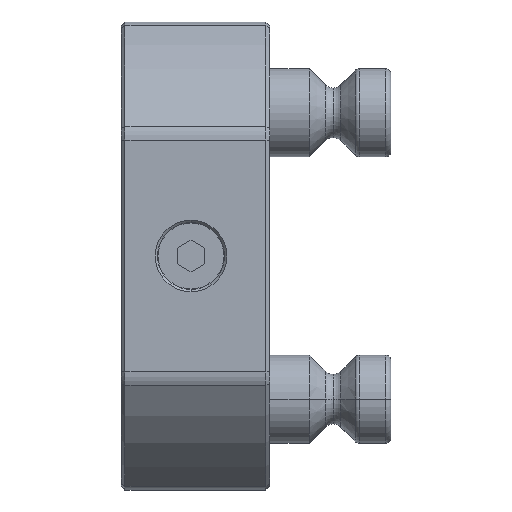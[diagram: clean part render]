
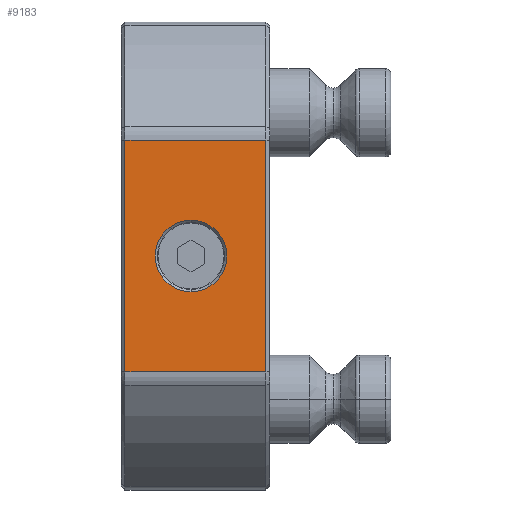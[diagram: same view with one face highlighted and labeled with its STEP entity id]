
A CAD part, left-side view. The second image highlights one B-rep face of the part: STEP entity #9183.
In plain terms, the highlighted planar face has unit normal (-1, 0, 0).
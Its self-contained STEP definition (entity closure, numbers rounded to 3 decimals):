
#113 = AXIS2_PLACEMENT_3D ( 'NONE', #6448, #206, #5459 ) ;
#206 = DIRECTION ( 'NONE',  ( 1., 0., 0. ) ) ;
#991 = ORIENTED_EDGE ( 'NONE', *, *, #12944, .T. ) ;
#1302 = CIRCLE ( 'NONE', #2171, 6.5 ) ;
#1423 = EDGE_LOOP ( 'NONE', ( #9463, #11194, #9920, #991 ) ) ;
#1432 = CARTESIAN_POINT ( 'NONE',  ( -42.5, 0.7, 21.042 ) ) ;
#1948 = FACE_BOUND ( 'NONE', #5717, .T. ) ;
#2160 = CARTESIAN_POINT ( 'NONE',  ( -42.5, 0., -21.042 ) ) ;
#2171 = AXIS2_PLACEMENT_3D ( 'NONE', #8966, #8910, #7900 ) ;
#2182 = DIRECTION ( 'NONE',  ( 0., 1., 0. ) ) ;
#2501 = EDGE_CURVE ( 'NONE', #5294, #2540, #3333, .T. ) ;
#2540 = VERTEX_POINT ( 'NONE', #12485 ) ;
#2842 = AXIS2_PLACEMENT_3D ( 'NONE', #4308, #10571, #12525 ) ;
#3108 = CIRCLE ( 'NONE', #113, 6.5 ) ;
#3191 = DIRECTION ( 'NONE',  ( 0., 0., -1. ) ) ;
#3333 = LINE ( 'NONE', #4211, #11518 ) ;
#4183 = VERTEX_POINT ( 'NONE', #8229 ) ;
#4211 = CARTESIAN_POINT ( 'NONE',  ( -42.5, 27., 21.042 ) ) ;
#4308 = CARTESIAN_POINT ( 'NONE',  ( -42.5, 27., 42.5 ) ) ;
#4532 = CARTESIAN_POINT ( 'NONE',  ( -42.5, 26.3, 42.5 ) ) ;
#4938 = ORIENTED_EDGE ( 'NONE', *, *, #8355, .T. ) ;
#5294 = VERTEX_POINT ( 'NONE', #1432 ) ;
#5459 = DIRECTION ( 'NONE',  ( 0., 0., -1. ) ) ;
#5564 = LINE ( 'NONE', #8559, #9983 ) ;
#5717 = EDGE_LOOP ( 'NONE', ( #4938, #9000 ) ) ;
#6448 = CARTESIAN_POINT ( 'NONE',  ( -42.5, 14.3, 0. ) ) ;
#6622 = DIRECTION ( 'NONE',  ( 0., 0., 1. ) ) ;
#7274 = LINE ( 'NONE', #2160, #9245 ) ;
#7528 = EDGE_CURVE ( 'NONE', #9276, #5294, #5564, .T. ) ;
#7900 = DIRECTION ( 'NONE',  ( 0., 0., -1. ) ) ;
#8229 = CARTESIAN_POINT ( 'NONE',  ( -42.5, 26.3, -21.042 ) ) ;
#8355 = EDGE_CURVE ( 'NONE', #12567, #12914, #1302, .T. ) ;
#8559 = CARTESIAN_POINT ( 'NONE',  ( -42.5, 0.7, 21.042 ) ) ;
#8910 = DIRECTION ( 'NONE',  ( 1., 0., 0. ) ) ;
#8966 = CARTESIAN_POINT ( 'NONE',  ( -42.5, 14.3, 0. ) ) ;
#9000 = ORIENTED_EDGE ( 'NONE', *, *, #11016, .T. ) ;
#9144 = EDGE_CURVE ( 'NONE', #4183, #9276, #7274, .T. ) ;
#9183 = ADVANCED_FACE ( 'NONE', ( #1948, #10077 ), #9683, .F. ) ;
#9245 = VECTOR ( 'NONE', #10287, 1000. ) ;
#9276 = VERTEX_POINT ( 'NONE', #11954 ) ;
#9463 = ORIENTED_EDGE ( 'NONE', *, *, #9144, .T. ) ;
#9523 = CARTESIAN_POINT ( 'NONE',  ( -42.5, 14.3, -6.5 ) ) ;
#9563 = CARTESIAN_POINT ( 'NONE',  ( -42.5, 14.3, 6.5 ) ) ;
#9683 = PLANE ( 'NONE',  #2842 ) ;
#9920 = ORIENTED_EDGE ( 'NONE', *, *, #2501, .T. ) ;
#9983 = VECTOR ( 'NONE', #6622, 1000. ) ;
#10077 = FACE_OUTER_BOUND ( 'NONE', #1423, .T. ) ;
#10287 = DIRECTION ( 'NONE',  ( 0., -1., 0. ) ) ;
#10571 = DIRECTION ( 'NONE',  ( 1., 0., 0. ) ) ;
#11016 = EDGE_CURVE ( 'NONE', #12914, #12567, #3108, .T. ) ;
#11194 = ORIENTED_EDGE ( 'NONE', *, *, #7528, .T. ) ;
#11518 = VECTOR ( 'NONE', #2182, 1000. ) ;
#11810 = VECTOR ( 'NONE', #3191, 1000. ) ;
#11954 = CARTESIAN_POINT ( 'NONE',  ( -42.5, 0.7, -21.042 ) ) ;
#12485 = CARTESIAN_POINT ( 'NONE',  ( -42.5, 26.3, 21.042 ) ) ;
#12525 = DIRECTION ( 'NONE',  ( 0., 0., -1. ) ) ;
#12558 = LINE ( 'NONE', #4532, #11810 ) ;
#12567 = VERTEX_POINT ( 'NONE', #9563 ) ;
#12914 = VERTEX_POINT ( 'NONE', #9523 ) ;
#12944 = EDGE_CURVE ( 'NONE', #2540, #4183, #12558, .T. ) ;
